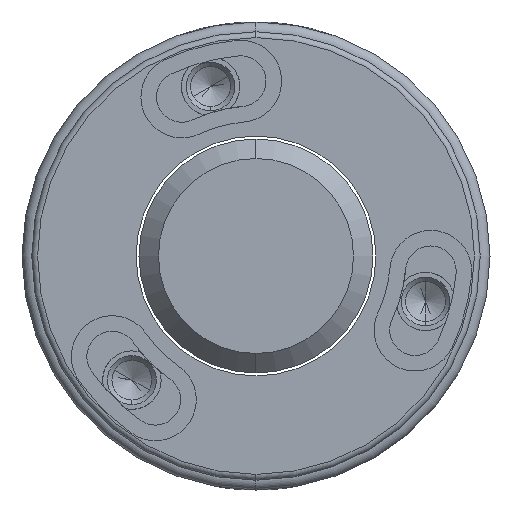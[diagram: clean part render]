
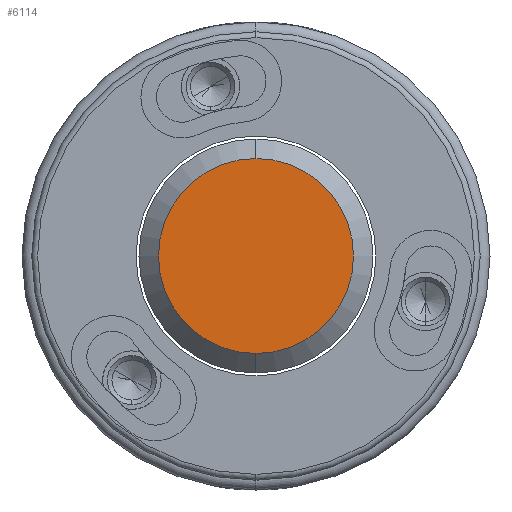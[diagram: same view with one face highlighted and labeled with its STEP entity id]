
A CAD part, left-side view. The second image highlights one B-rep face of the part: STEP entity #6114.
In plain terms, the highlighted planar face has unit normal (-1, 0, 0).
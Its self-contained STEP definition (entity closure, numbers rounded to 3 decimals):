
#644 = CIRCLE ( 'NONE', #2226, 5. ) ;
#683 = VERTEX_POINT ( 'NONE', #2940 ) ;
#938 = CARTESIAN_POINT ( 'NONE',  ( -10., 0., 0. ) ) ;
#946 = DIRECTION ( 'NONE',  ( -1., 0., 0. ) ) ;
#1377 = CARTESIAN_POINT ( 'NONE',  ( -10., 0., 0. ) ) ;
#1634 = VERTEX_POINT ( 'NONE', #5816 ) ;
#1782 = CIRCLE ( 'NONE', #3328, 5. ) ;
#2226 = AXIS2_PLACEMENT_3D ( 'NONE', #938, #5191, #5680 ) ;
#2280 = AXIS2_PLACEMENT_3D ( 'NONE', #1377, #946, #3787 ) ;
#2914 = EDGE_CURVE ( 'NONE', #1634, #683, #1782, .T. ) ;
#2940 = CARTESIAN_POINT ( 'NONE',  ( -10., 0., -5. ) ) ;
#3328 = AXIS2_PLACEMENT_3D ( 'NONE', #5688, #3353, #6154 ) ;
#3353 = DIRECTION ( 'NONE',  ( -1., 0., 0. ) ) ;
#3446 = FACE_OUTER_BOUND ( 'NONE', #4158, .T. ) ;
#3457 = EDGE_CURVE ( 'NONE', #683, #1634, #644, .T. ) ;
#3474 = ORIENTED_EDGE ( 'NONE', *, *, #2914, .T. ) ;
#3787 = DIRECTION ( 'NONE',  ( 0., 0., 1. ) ) ;
#4158 = EDGE_LOOP ( 'NONE', ( #4650, #3474 ) ) ;
#4650 = ORIENTED_EDGE ( 'NONE', *, *, #3457, .T. ) ;
#5191 = DIRECTION ( 'NONE',  ( -1., 0., 0. ) ) ;
#5680 = DIRECTION ( 'NONE',  ( 0., 0., 1. ) ) ;
#5688 = CARTESIAN_POINT ( 'NONE',  ( -10., 0., 0. ) ) ;
#5816 = CARTESIAN_POINT ( 'NONE',  ( -10., 0., 5. ) ) ;
#6114 = ADVANCED_FACE ( 'NONE', ( #3446 ), #6158, .T. ) ;
#6154 = DIRECTION ( 'NONE',  ( 0., 0., 1. ) ) ;
#6158 = PLANE ( 'NONE',  #2280 ) ;
